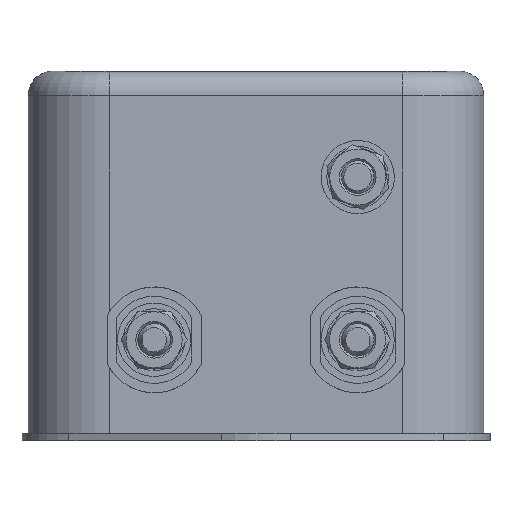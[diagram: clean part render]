
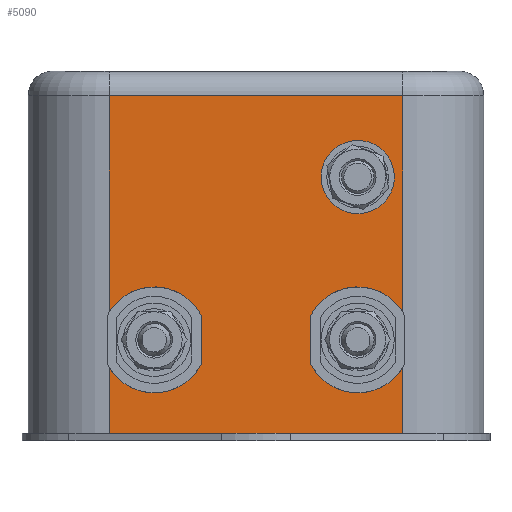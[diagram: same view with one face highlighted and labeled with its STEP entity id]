
A CAD part, left-side view. The second image highlights one B-rep face of the part: STEP entity #5090.
In plain terms, the highlighted planar face has unit normal (-1, 0, 0).
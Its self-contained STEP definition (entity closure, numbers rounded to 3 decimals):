
#3359=CARTESIAN_POINT('',(-47.,18.,8.936));
#3360=VERTEX_POINT('',#3359);
#3361=CARTESIAN_POINT('',(-47.,18.,15.864));
#3362=VERTEX_POINT('',#3361);
#4823=CARTESIAN_POINT('',(-47.,6.75,15.431));
#4824=VERTEX_POINT('',#4823);
#4831=CARTESIAN_POINT('',(-47.0,12.5,12.4));
#4832=DIRECTION('',(1.,0.,0.));
#4833=DIRECTION('',(0.,-0.885,-0.466));
#4834=AXIS2_PLACEMENT_3D('',#4831,#4832,#4833);
#4835=CIRCLE('',#4834,6.5);
#4836=EDGE_CURVE('',#3362,#4824,#4835,.T.);
#4846=CARTESIAN_POINT('',(-47.,6.75,9.369));
#4847=VERTEX_POINT('',#4846);
#4848=CARTESIAN_POINT('',(-47.0,6.75,15.431));
#4849=DIRECTION('',(0.0,0.0,-1.0));
#4850=VECTOR('',#4849,6.062);
#4851=LINE('',#4848,#4850);
#4852=EDGE_CURVE('',#4824,#4847,#4851,.T.);
#4870=CARTESIAN_POINT('',(-47.0,12.5,12.4));
#4871=DIRECTION('',(1.,0.,0.));
#4872=DIRECTION('',(0.,0.885,0.466));
#4873=AXIS2_PLACEMENT_3D('',#4870,#4871,#4872);
#4874=CIRCLE('',#4873,6.5);
#4875=EDGE_CURVE('',#4847,#3360,#4874,.T.);
#4997=CARTESIAN_POINT('',(-47.,-28.,0.0));
#4998=DIRECTION('',(-1.0,0.0,0.0));
#4999=DIRECTION('',(0.0,0.0,1.0));
#5000=AXIS2_PLACEMENT_3D('',#4997,#4998,#4999);
#5001=PLANE('',#5000);
#5002=ORIENTED_EDGE('',*,*,#4836,.T.);
#5003=ORIENTED_EDGE('',*,*,#4852,.T.);
#5004=ORIENTED_EDGE('',*,*,#4875,.T.);
#5005=CARTESIAN_POINT('',(-47.0,18.,0.9));
#5006=VERTEX_POINT('',#5005);
#5007=CARTESIAN_POINT('',(-47.0,18.,0.9));
#5008=DIRECTION('',(0.0,0.0,1.0));
#5009=VECTOR('',#5008,8.036);
#5010=LINE('',#5007,#5009);
#5011=EDGE_CURVE('',#5006,#3360,#5010,.T.);
#5012=ORIENTED_EDGE('',*,*,#5011,.F.);
#5013=CARTESIAN_POINT('',(-47.,-18.,0.9));
#5014=VERTEX_POINT('',#5013);
#5015=CARTESIAN_POINT('',(-47.,18.,0.9));
#5016=DIRECTION('',(0.0,-1.0,0.0));
#5017=VECTOR('',#5016,36.0);
#5018=LINE('',#5015,#5017);
#5019=EDGE_CURVE('',#5006,#5014,#5018,.T.);
#5020=ORIENTED_EDGE('',*,*,#5019,.T.);
#5021=CARTESIAN_POINT('',(-47.,-18.,8.936));
#5022=VERTEX_POINT('',#5021);
#5023=CARTESIAN_POINT('',(-47.,-18.,8.936));
#5024=DIRECTION('',(0.0,0.0,-1.0));
#5025=VECTOR('',#5024,8.036);
#5026=LINE('',#5023,#5025);
#5027=EDGE_CURVE('',#5022,#5014,#5026,.T.);
#5028=ORIENTED_EDGE('',*,*,#5027,.F.);
#5029=CARTESIAN_POINT('',(-47.0,-6.75,9.369));
#5030=VERTEX_POINT('',#5029);
#5031=CARTESIAN_POINT('',(-47.0,-12.5,12.4));
#5032=DIRECTION('',(1.,0.,0.));
#5033=DIRECTION('',(0.,0.885,0.466));
#5034=AXIS2_PLACEMENT_3D('',#5031,#5032,#5033);
#5035=CIRCLE('',#5034,6.5);
#5036=EDGE_CURVE('',#5022,#5030,#5035,.T.);
#5037=ORIENTED_EDGE('',*,*,#5036,.T.);
#5038=CARTESIAN_POINT('',(-47.0,-6.75,15.431));
#5039=VERTEX_POINT('',#5038);
#5040=CARTESIAN_POINT('',(-47.,-6.75,9.369));
#5041=DIRECTION('',(0.0,0.0,1.0));
#5042=VECTOR('',#5041,6.062);
#5043=LINE('',#5040,#5042);
#5044=EDGE_CURVE('',#5030,#5039,#5043,.T.);
#5045=ORIENTED_EDGE('',*,*,#5044,.T.);
#5046=CARTESIAN_POINT('',(-47.,-18.,15.864));
#5047=VERTEX_POINT('',#5046);
#5048=CARTESIAN_POINT('',(-47.0,-12.5,12.4));
#5049=DIRECTION('',(1.,0.,0.));
#5050=DIRECTION('',(0.,-0.885,-0.466));
#5051=AXIS2_PLACEMENT_3D('',#5048,#5049,#5050);
#5052=CIRCLE('',#5051,6.5);
#5053=EDGE_CURVE('',#5039,#5047,#5052,.T.);
#5054=ORIENTED_EDGE('',*,*,#5053,.T.);
#5055=CARTESIAN_POINT('',(-47.,-18.,42.4));
#5056=VERTEX_POINT('',#5055);
#5057=CARTESIAN_POINT('',(-47.,-18.,42.4));
#5058=DIRECTION('',(0.0,0.0,-1.0));
#5059=VECTOR('',#5058,26.536);
#5060=LINE('',#5057,#5059);
#5061=EDGE_CURVE('',#5056,#5047,#5060,.T.);
#5062=ORIENTED_EDGE('',*,*,#5061,.F.);
#5063=CARTESIAN_POINT('',(-47.0,18.,42.4));
#5064=VERTEX_POINT('',#5063);
#5065=CARTESIAN_POINT('',(-47.,18.0,42.4));
#5066=DIRECTION('',(0.0,-1.0,0.0));
#5067=VECTOR('',#5066,36.0);
#5068=LINE('',#5065,#5067);
#5069=EDGE_CURVE('',#5064,#5056,#5068,.T.);
#5070=ORIENTED_EDGE('',*,*,#5069,.F.);
#5071=CARTESIAN_POINT('',(-47.0,18.,15.864));
#5072=DIRECTION('',(0.0,0.0,1.0));
#5073=VECTOR('',#5072,26.536);
#5074=LINE('',#5071,#5073);
#5075=EDGE_CURVE('',#3362,#5064,#5074,.T.);
#5076=ORIENTED_EDGE('',*,*,#5075,.F.);
#5077=EDGE_LOOP('',(#5002,#5003,#5004,#5012,#5020,#5028,#5037,#5045,#5054,#5062,#5070,#5076));
#5078=FACE_OUTER_BOUND('',#5077,.T.);
#5079=CARTESIAN_POINT('',(-47.0,-10.779,29.42));
#5080=VERTEX_POINT('',#5079);
#5081=CARTESIAN_POINT('',(-47.,-12.5,32.4));
#5082=DIRECTION('',(1.0,0.,0.));
#5083=DIRECTION('',(0.,-0.5,0.866));
#5084=AXIS2_PLACEMENT_3D('',#5081,#5082,#5083);
#5085=CIRCLE('',#5084,3.441);
#5086=EDGE_CURVE('',#5080,#5080,#5085,.T.);
#5087=ORIENTED_EDGE('',*,*,#5086,.T.);
#5088=EDGE_LOOP('',(#5087));
#5089=FACE_BOUND('',#5088,.T.);
#5090=ADVANCED_FACE('',(#5078,#5089),#5001,.T.);
